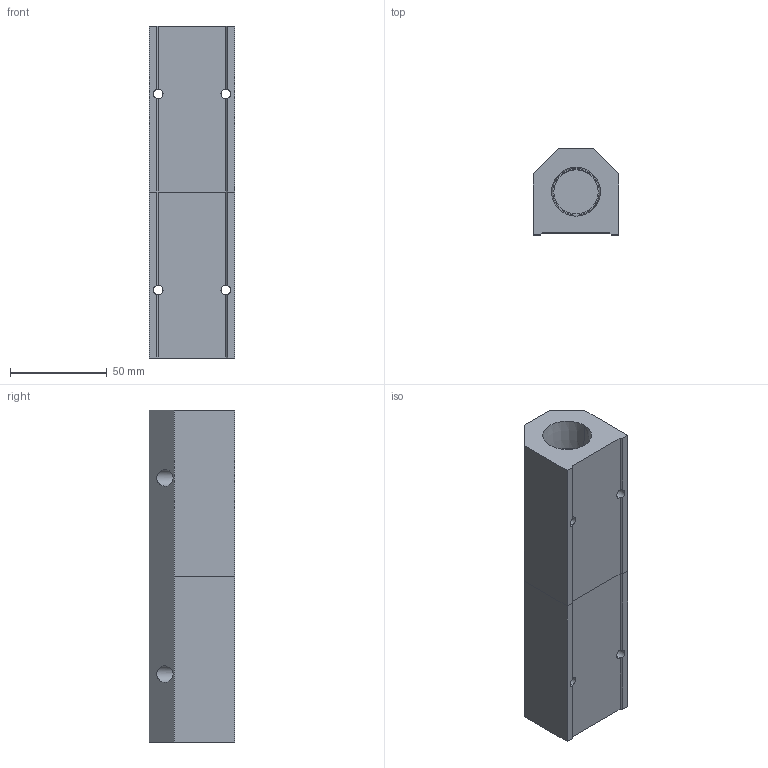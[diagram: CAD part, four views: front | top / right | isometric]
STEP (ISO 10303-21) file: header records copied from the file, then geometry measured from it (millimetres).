
FILE_DESCRIPTION (( 'STEP AP214' ), '1' );
FILE_NAME ('ALM6C-N4N12-172RB.step', '2022-02-06T14:18:48', ( '' ), ( '' ), 'SwSTEP 2.0', 'SolidWorks 2020', '' );
FILE_SCHEMA (( 'AUTOMOTIVE_DESIGN' ));
Length unit declared in the file: millimetre
Products named in the file (1): ALM6C-N4N12-172RB
Bounding box: 44.5 x 44.5 x 172 mm (x, y, z)
Volume: 220776.7 mm3; surface area: 51063.8 mm2
Topology: 2 solids, 2 shells, 315 faces, 824 edges, 544 vertices
Faces by surface type: plane 221, bspline 48, cylinder 24, cone 22
Entity records: 16363 total; most frequent: CARTESIAN_POINT 5904, ORIENTED_EDGE 1648, DIRECTION 1292, EDGE_CURVE 824, VECTOR 628, LINE 628, VERTEX_POINT 544, EDGE_LOOP 366
